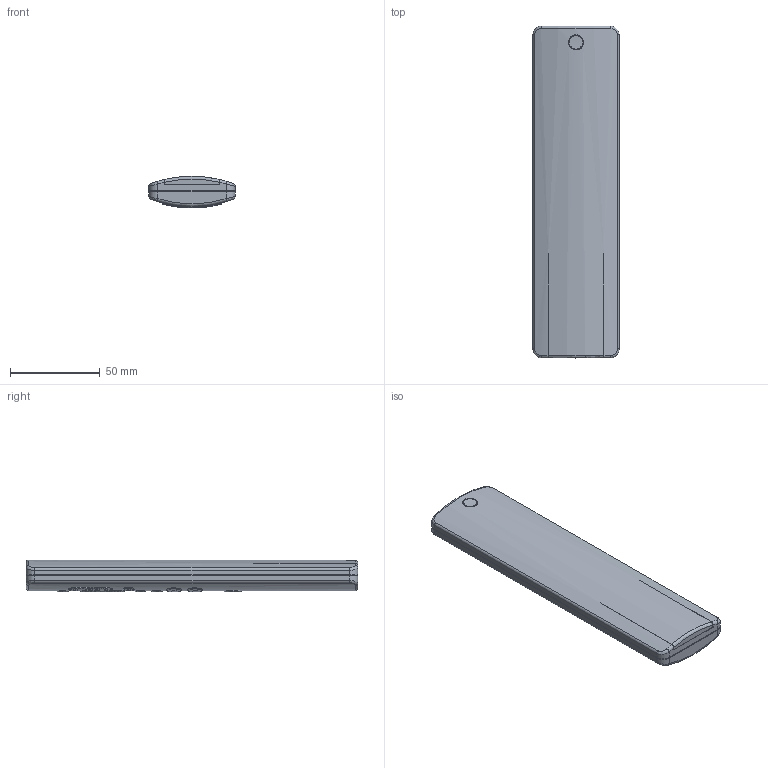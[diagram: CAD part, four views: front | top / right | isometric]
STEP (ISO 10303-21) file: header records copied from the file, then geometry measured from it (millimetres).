
FILE_DESCRIPTION((''),'2;1');
FILE_NAME('HC34BL1000','2017-03-10T',('jebi'),(''),'CREO PARAMETRIC BY PTC INC, 2016050','CREO PARAMETRIC BY PTC INC, 2016050','');
FILE_SCHEMA(('CONFIG_CONTROL_DESIGN'));
Products named in the file (1): HC34BL1000
Bounding box: 48 x 185 x 17.71 mm (x, y, z)
Volume: 124362.1 mm3; surface area: 24426.3 mm2
Topology: 1 solids, 3 shells, 666 faces, 1725 edges, 1132 vertices
Faces by surface type: bspline 298, plane 216, cylinder 110, extrusion 28, cone 8, torus 6
Entity records: 40786 total; most frequent: CARTESIAN_POINT 24557, ORIENTED_EDGE 3450, DIRECTION 2304, EDGE_CURVE 1725, VERTEX_POINT 1132, AXIS2_PLACEMENT_3D 773, VECTOR 758, EDGE_LOOP 733
